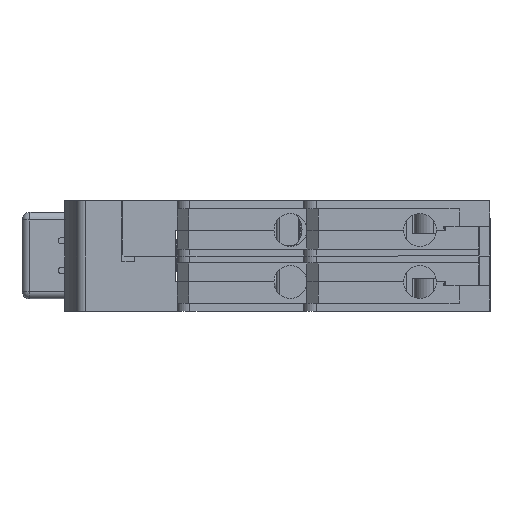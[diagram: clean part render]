
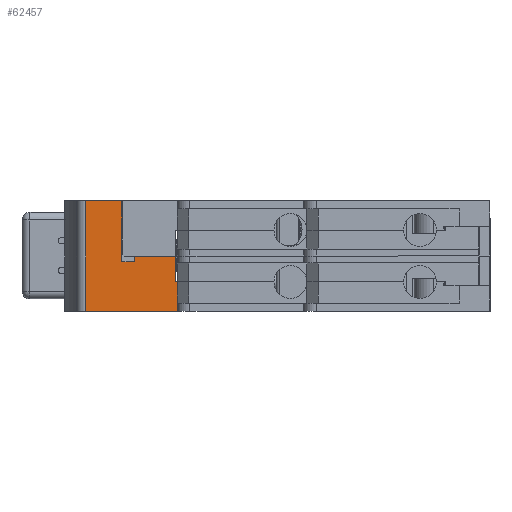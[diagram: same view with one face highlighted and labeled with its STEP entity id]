
A CAD part, left-side view. The second image highlights one B-rep face of the part: STEP entity #62457.
In plain terms, the highlighted planar face has unit normal (-1, 0, 0).
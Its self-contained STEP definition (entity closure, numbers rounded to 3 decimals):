
#56936 = VERTEX_POINT ( 'NONE', #70204 ) ;
#56940 = EDGE_CURVE ( 'NONE', #56936, #56941, #70188, .T. ) ;
#56941 = VERTEX_POINT ( 'NONE', #70181 ) ;
#57083 = VERTEX_POINT ( 'NONE', #70923 ) ;
#57086 = VERTEX_POINT ( 'NONE', #70908 ) ;
#57100 = EDGE_CURVE ( 'NONE', #57083, #57086, #71002, .T. ) ;
#57386 = VERTEX_POINT ( 'NONE', #72241 ) ;
#57462 = EDGE_CURVE ( 'NONE', #57463, #57386, #72716, .T. ) ;
#57463 = VERTEX_POINT ( 'NONE', #72710 ) ;
#57803 = VERTEX_POINT ( 'NONE', #73854 ) ;
#57808 = EDGE_CURVE ( 'NONE', #57803, #57809, #73847, .T. ) ;
#57809 = VERTEX_POINT ( 'NONE', #73841 ) ;
#62432 = EDGE_CURVE ( 'NONE', #56941, #62476, #89705, .T. ) ;
#62457 = ADVANCED_FACE ( 'NONE', ( #89759 ), #89743, .F. ) ;
#62458 = EDGE_LOOP ( 'NONE', ( #62459, #62461, #62463, #62464, #62466, #62467, #62470, #62471, #62474, #62477 ) ) ;
#62459 = ORIENTED_EDGE ( 'NONE', *, *, #56940, .F. ) ;
#62461 = ORIENTED_EDGE ( 'NONE', *, *, #62462, .T. ) ;
#62462 = EDGE_CURVE ( 'NONE', #56936, #57463, #89791, .T. ) ;
#62463 = ORIENTED_EDGE ( 'NONE', *, *, #57462, .T. ) ;
#62464 = ORIENTED_EDGE ( 'NONE', *, *, #62465, .F. ) ;
#62465 = EDGE_CURVE ( 'NONE', #57086, #57386, #89787, .T. ) ;
#62466 = ORIENTED_EDGE ( 'NONE', *, *, #57100, .F. ) ;
#62467 = ORIENTED_EDGE ( 'NONE', *, *, #62468, .F. ) ;
#62468 = EDGE_CURVE ( 'NONE', #57809, #57083, #89783, .T. ) ;
#62470 = ORIENTED_EDGE ( 'NONE', *, *, #57808, .F. ) ;
#62471 = ORIENTED_EDGE ( 'NONE', *, *, #62472, .F. ) ;
#62472 = EDGE_CURVE ( 'NONE', #62473, #57803, #89778, .T. ) ;
#62473 = VERTEX_POINT ( 'NONE', #89774 ) ;
#62474 = ORIENTED_EDGE ( 'NONE', *, *, #62475, .F. ) ;
#62475 = EDGE_CURVE ( 'NONE', #62476, #62473, #89773, .T. ) ;
#62476 = VERTEX_POINT ( 'NONE', #89769 ) ;
#62477 = ORIENTED_EDGE ( 'NONE', *, *, #62432, .F. ) ;
#70181 = CARTESIAN_POINT ( 'NONE',  ( -22.5, 30.79, 8.75 ) ) ;
#70183 = DIRECTION ( 'NONE',  ( 0., -1., 0. ) ) ;
#70185 = VECTOR ( 'NONE', #70183, 1000. ) ;
#70187 = CARTESIAN_POINT ( 'NONE',  ( -22.5, 37.49, 8.75 ) ) ;
#70188 = LINE ( 'NONE', #70187, #70185 ) ;
#70204 = CARTESIAN_POINT ( 'NONE',  ( -22.5, 36.5, 8.75 ) ) ;
#70908 = CARTESIAN_POINT ( 'NONE',  ( -22.5, 22., -4.1 ) ) ;
#70923 = CARTESIAN_POINT ( 'NONE',  ( -22.5, 22.3, -4.1 ) ) ;
#70997 = DIRECTION ( 'NONE',  ( 0., -1., 0. ) ) ;
#70999 = VECTOR ( 'NONE', #70997, 1000. ) ;
#71001 = CARTESIAN_POINT ( 'NONE',  ( -22.5, 22.3, -4.1 ) ) ;
#71002 = LINE ( 'NONE', #71001, #70999 ) ;
#72241 = CARTESIAN_POINT ( 'NONE',  ( -22.5, 22., -8.75 ) ) ;
#72710 = CARTESIAN_POINT ( 'NONE',  ( -22.5, 36.5, -8.75 ) ) ;
#72711 = DIRECTION ( 'NONE',  ( 0., -1., 0. ) ) ;
#72713 = VECTOR ( 'NONE', #72711, 1000. ) ;
#72715 = CARTESIAN_POINT ( 'NONE',  ( -22.5, 22., -8.75 ) ) ;
#72716 = LINE ( 'NONE', #72715, #72713 ) ;
#73841 = CARTESIAN_POINT ( 'NONE',  ( -22.5, 22.3, 0. ) ) ;
#73843 = DIRECTION ( 'NONE',  ( 0., -1., 0. ) ) ;
#73844 = VECTOR ( 'NONE', #73843, 1000. ) ;
#73845 = CARTESIAN_POINT ( 'NONE',  ( -22.5, 37.49, 0. ) ) ;
#73847 = LINE ( 'NONE', #73845, #73844 ) ;
#73854 = CARTESIAN_POINT ( 'NONE',  ( -22.5, 28.79, 0. ) ) ;
#89701 = DIRECTION ( 'NONE',  ( 0., 0., -1. ) ) ;
#89702 = VECTOR ( 'NONE', #89701, 1000. ) ;
#89703 = CARTESIAN_POINT ( 'NONE',  ( -22.5, 30.79, 8.75 ) ) ;
#89705 = LINE ( 'NONE', #89703, #89702 ) ;
#89743 = PLANE ( 'NONE',  #89795 ) ;
#89759 = FACE_OUTER_BOUND ( 'NONE', #62458, .T. ) ;
#89769 = CARTESIAN_POINT ( 'NONE',  ( -22.5, 30.79, -0.9 ) ) ;
#89770 = DIRECTION ( 'NONE',  ( 0., -1., 0. ) ) ;
#89771 = VECTOR ( 'NONE', #89770, 1000. ) ;
#89772 = CARTESIAN_POINT ( 'NONE',  ( -22.5, 30.79, -0.9 ) ) ;
#89773 = LINE ( 'NONE', #89772, #89771 ) ;
#89774 = CARTESIAN_POINT ( 'NONE',  ( -22.5, 28.79, -0.9 ) ) ;
#89775 = DIRECTION ( 'NONE',  ( 0., 0., 1. ) ) ;
#89776 = VECTOR ( 'NONE', #89775, 1000. ) ;
#89777 = CARTESIAN_POINT ( 'NONE',  ( -22.5, 28.79, -0.9 ) ) ;
#89778 = LINE ( 'NONE', #89777, #89776 ) ;
#89780 = DIRECTION ( 'NONE',  ( 0., 0., -1. ) ) ;
#89781 = VECTOR ( 'NONE', #89780, 1000. ) ;
#89782 = CARTESIAN_POINT ( 'NONE',  ( -22.5, 22.3, 0. ) ) ;
#89783 = LINE ( 'NONE', #89782, #89781 ) ;
#89784 = DIRECTION ( 'NONE',  ( 0., 0., -1. ) ) ;
#89785 = VECTOR ( 'NONE', #89784, 1000. ) ;
#89786 = CARTESIAN_POINT ( 'NONE',  ( -22.5, 22., -7.45 ) ) ;
#89787 = LINE ( 'NONE', #89786, #89785 ) ;
#89788 = DIRECTION ( 'NONE',  ( 0., 0., -1. ) ) ;
#89789 = VECTOR ( 'NONE', #89788, 1000. ) ;
#89790 = CARTESIAN_POINT ( 'NONE',  ( -22.5, 36.5, -8.75 ) ) ;
#89791 = LINE ( 'NONE', #89790, #89789 ) ;
#89792 = DIRECTION ( 'NONE',  ( 0., 0., -1. ) ) ;
#89793 = DIRECTION ( 'NONE',  ( 1., 0., 0. ) ) ;
#89794 = CARTESIAN_POINT ( 'NONE',  ( -22.5, 22., -7.45 ) ) ;
#89795 = AXIS2_PLACEMENT_3D ( 'NONE', #89794, #89793, #89792 ) ;
